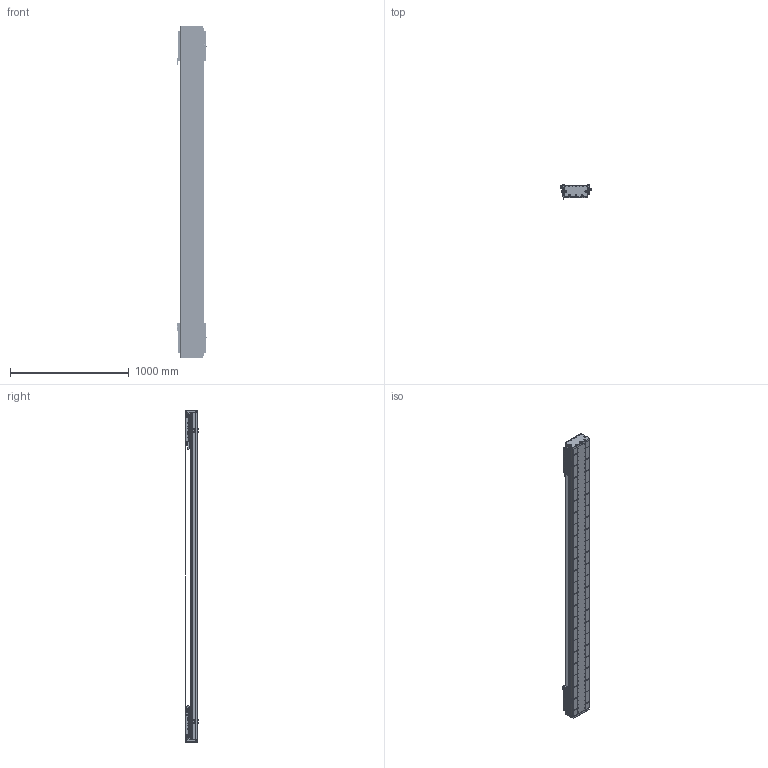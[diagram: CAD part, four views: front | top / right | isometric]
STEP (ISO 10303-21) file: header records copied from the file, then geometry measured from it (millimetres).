
FILE_DESCRIPTION (( 'STEP AP203' ), '1' );
FILE_NAME ('DA-C195-2-C3-T2180-C010-0.2 眻盄萇儂.STEP', '2025-08-15T00:47:27', ( '' ), ( '' ), 'SwSTEP 2.0', 'SolidWorks 2019', '' );
FILE_SCHEMA (( 'CONFIG_CONTROL_DESIGN' ));
Length unit declared in the file: millimetre
Products named in the file (19): DA165-GYP-00 光电感应片(默认); DA195詩湍嶺輸; DA195詩湍郪璃; DKW168-HXJ-ZJ-00 笢潔滅袉砎蝶; CU195-C3賑輸-俋楷; 葩璃 DA95-GT-T-00; DA195詩湍裔啣; PM-T45ㄗ侂狟ㄘ; LMT黍杅芛; DA-C195-2-C3-T2180-C010-0.2 眻盄萇儂; DA-C195-GD-DB-H-00 傷啣; DKW-GYP-ZJ-00 笢潔嫖萇覜茼え; DA95-HXJ-00 遣喳砎蝶; IU-CU195-L 菁釱絳寢; MS200 棠掑喜S315-T240; DKW-KGZ-ZJ-00 中间光电开关支架; DA195詩湍菜輸; IU-CU195-L-00 菁釱(L2760); PM-Y65嫖萇羲壽郪璃
Assembly tree (37 placements, depth 3):
  DA-C195-2-C3-T2180-C010-0.2 眻盄萇儂
    DA195詩湍郪璃
      DA195詩湍菜輸  x2
      DA195詩湍裔啣
      DA195詩湍嶺輸  x2
      DA95-HXJ-00 遣喳砎蝶  x8
      DA-C195-GD-DB-H-00 傷啣  x2
    IU-CU195-L 菁釱絳寢
      IU-CU195-L-00 菁釱(L2760)
      葩璃 DA95-GT-T-00  x4
    LMT黍杅芛  x2
    MS200 棠掑喜S315-T240
    PM-T45ㄗ侂狟ㄘ  x4
    DA165-GYP-00 光电感应片(默认)  x2
    PM-Y65嫖萇羲壽郪璃
    DKW168-HXJ-ZJ-00 笢潔滅袉砎蝶
    DKW-GYP-ZJ-00 笢潔嫖萇覜茼え
    DKW-KGZ-ZJ-00 中间光电开关支架
    CU195-C3賑輸-俋楷  x2
Bounding box: 258.2 x 115.45 x 2800 mm (x, y, z)
Volume: 17930277.3 mm3; surface area: 5156331.3 mm2
Topology: 154 solids, 218 shells, 6959 faces, 18687 edges, 11653 vertices
Faces by surface type: cylinder 3354, plane 2553, cone 884, torus 88, sphere 72, bspline 8
Entity records: 153209 total; most frequent: CARTESIAN_POINT 41321, ORIENTED_EDGE 23390, DIRECTION 22280, EDGE_CURVE 11695, AXIS2_PLACEMENT_3D 8209, VERTEX_POINT 7578, LINE 5862, VECTOR 5862
